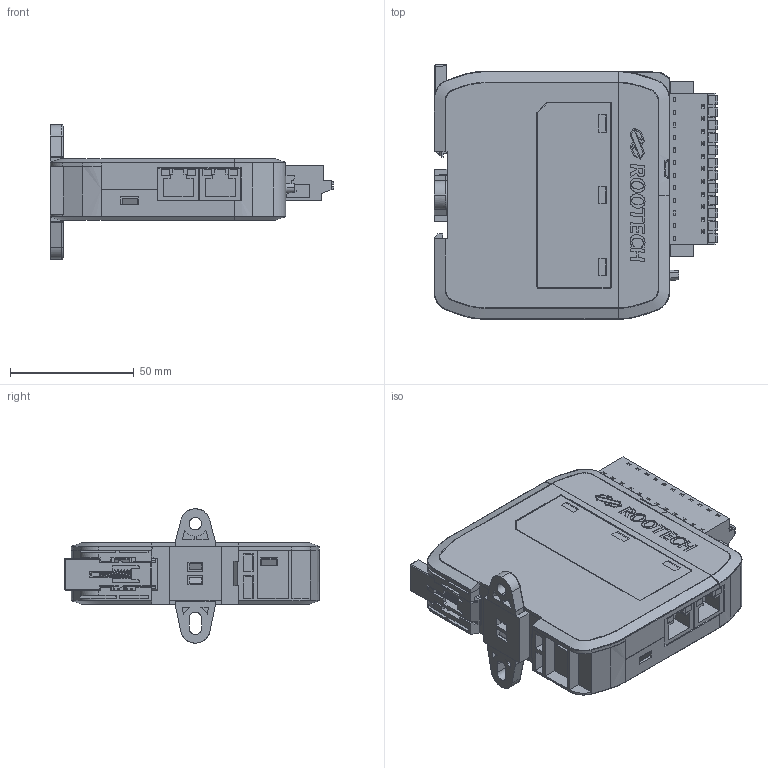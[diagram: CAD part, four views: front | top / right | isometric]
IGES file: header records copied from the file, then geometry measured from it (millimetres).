
Global section: file name: \\10.10.10.23\16_; native system: Rhinoceros ( May 22 2017 ); preprocessor: Trout Lake IGES 012 May 22 2017; date: 240522.005704; units: millimetre
Bounding box: 114.48 x 102.69 x 54.2 mm (x, y, z)
Surface area: 97324.9 mm2 (no closed solid volume)
Topology: 0 solids, 0 shells, 4098 faces, 24997 edges, 24993 vertices
Faces by surface type: bspline 4098
